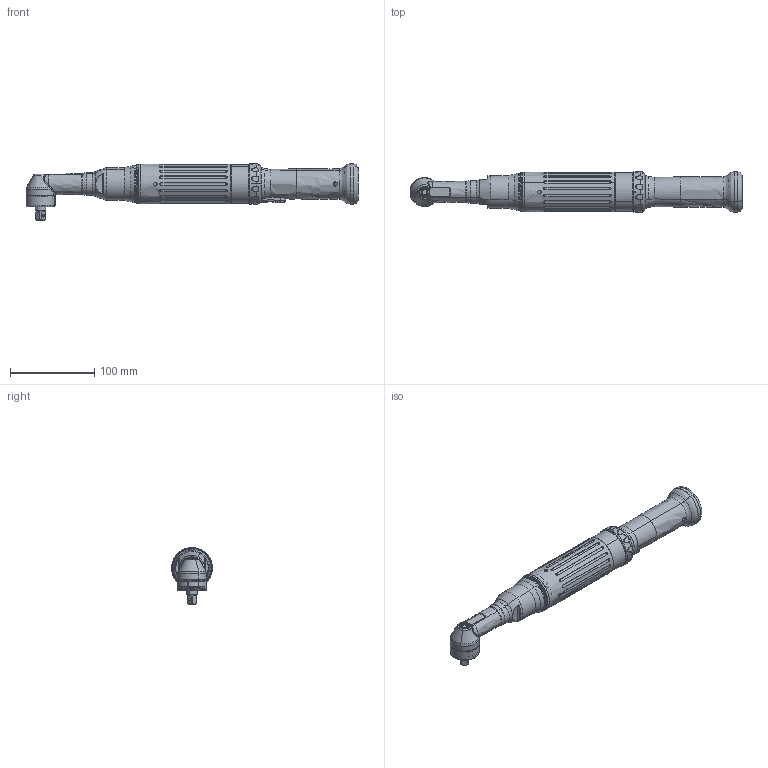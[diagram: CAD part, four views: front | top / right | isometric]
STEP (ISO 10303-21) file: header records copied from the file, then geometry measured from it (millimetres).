
FILE_DESCRIPTION(('STEP AP203'),'2;1');
FILE_NAME('EH2-R1030-A.stp','2009-03-18T08:42:51',(''),(''),'2008.1.107','THINKDESIGN','');
FILE_SCHEMA(('CONFIG_CONTROL_DESIGN'));
Bounding box: 393.18 x 48 x 67 mm (x, y, z)
Surface area: 116920.9 mm2 (no closed solid volume)
Topology: 0 solids, 0 shells, 1298 faces, 6093 edges, 6042 vertices
Faces by surface type: bspline 958, plane 340
Entity records: 68078 total; most frequent: CARTESIAN_POINT 48865, COMPOSITE_CURVE_SEGMENT 5801, DIRECTION 2408, B_SPLINE_CURVE_WITH_KNOTS 2177, TRIMMED_CURVE 1729, VECTOR 1728, LINE 1728, OUTER_BOUNDARY_CURVE 1287
